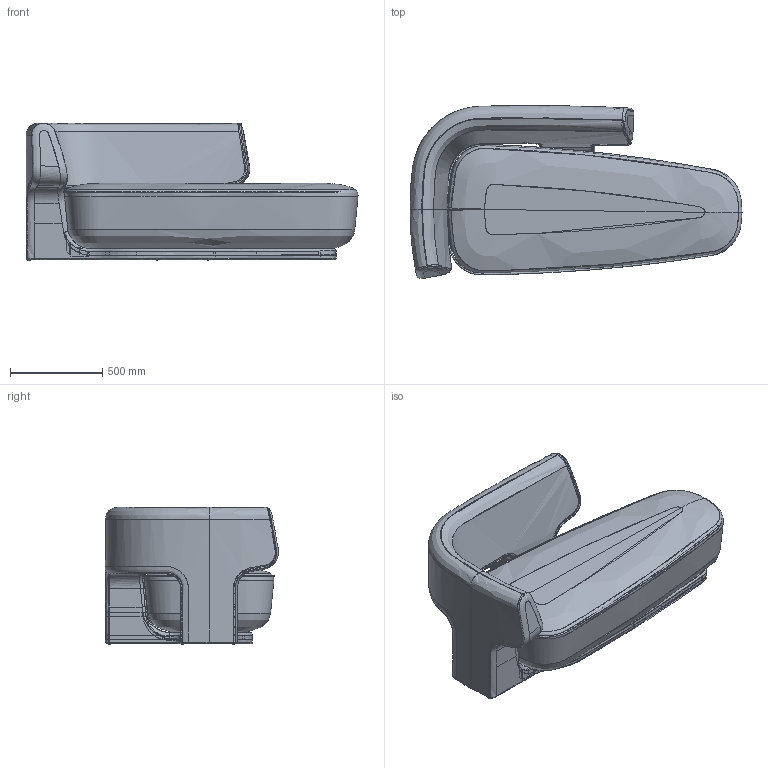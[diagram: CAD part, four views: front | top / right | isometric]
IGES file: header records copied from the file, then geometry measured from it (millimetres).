
Start section: SolidWorks IGES file using analytic representation for surfaces
Global section: file name: C:\Users\market02\Desktop\RYAN\litho plan\fait\PierreFrey_Delvigne_Litho_Meridienne_\PierreFrey_Delvigne_Litho_Meridienne_.igs; native system: Rhinoceros ( Dec 14 2021 ); preprocessor: Trout Lake IGES 012 Dec 14 2021; date: 220725.144821; units: millimetre
Bounding box: 1798.1 x 937.67 x 744 mm (x, y, z)
Surface area: 7773701.9 mm2 (no closed solid volume)
Topology: 0 solids, 0 shells, 294 faces, 5304 edges, 5210 vertices
Faces by surface type: bspline 294
